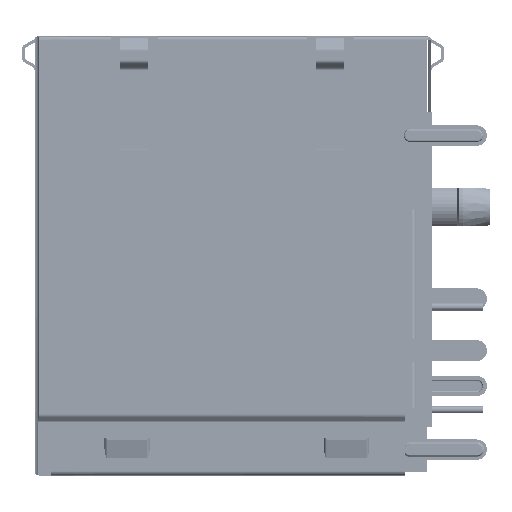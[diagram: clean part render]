
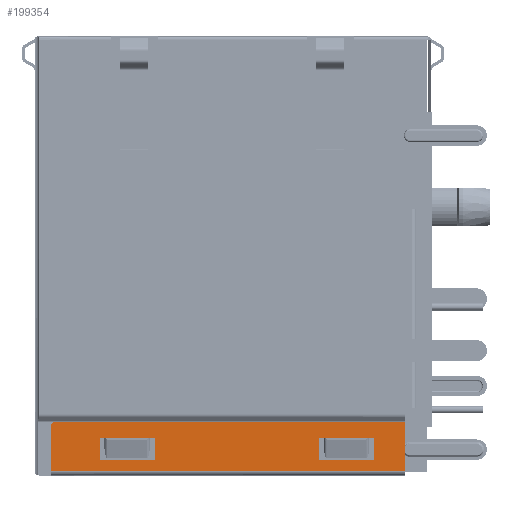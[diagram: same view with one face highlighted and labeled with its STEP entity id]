
A CAD part, left-side view. The second image highlights one B-rep face of the part: STEP entity #199354.
In plain terms, the highlighted planar face has unit normal (-1, 0, 0).
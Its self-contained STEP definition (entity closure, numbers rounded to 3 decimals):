
#162197=DIRECTION('',(0.,-1.,0.));
#162198=VECTOR('',#162197,22.609);
#162199=CARTESIAN_POINT('',(-57.495,11.609,0.3));
#162200=LINE('',#162199,#162198);
#170348=DIRECTION('',(0.,0.,1.));
#170349=VECTOR('',#170348,2.837);
#170350=CARTESIAN_POINT('',(-57.495,11.609,0.3));
#170351=LINE('',#170350,#170349);
#170352=CARTESIAN_POINT('',(-57.495,11.309,3.137));
#170353=DIRECTION('',(1.,0.,0.));
#170354=DIRECTION('',(0.,1.,0.));
#170355=AXIS2_PLACEMENT_3D('',#170352,#170353,#170354);
#170357=DIRECTION('',(0.,0.,-1.));
#170358=VECTOR('',#170357,3.137);
#170359=CARTESIAN_POINT('',(-57.495,-11.,3.437));
#170360=LINE('',#170359,#170358);
#170361=DIRECTION('',(0.,1.,0.));
#170362=VECTOR('',#170361,0.353);
#170363=CARTESIAN_POINT('',(-57.495,-5.853,2.4));
#170364=LINE('',#170363,#170362);
#170365=DIRECTION('',(0.,0.,-1.));
#170366=VECTOR('',#170365,1.4);
#170367=CARTESIAN_POINT('',(-57.495,-5.5,2.4));
#170368=LINE('',#170367,#170366);
#170369=DIRECTION('',(0.,-1.,0.));
#170370=VECTOR('',#170369,3.5);
#170371=CARTESIAN_POINT('',(-57.495,-5.5,1.));
#170372=LINE('',#170371,#170370);
#170373=DIRECTION('',(0.,0.,1.));
#170374=VECTOR('',#170373,1.4);
#170375=CARTESIAN_POINT('',(-57.495,-9.,1.));
#170376=LINE('',#170375,#170374);
#170377=DIRECTION('',(0.,1.,0.));
#170378=VECTOR('',#170377,0.353);
#170379=CARTESIAN_POINT('',(-57.495,-9.,2.4));
#170380=LINE('',#170379,#170378);
#170381=DIRECTION('',(0.,1.,0.));
#170382=VECTOR('',#170381,2.795);
#170383=CARTESIAN_POINT('',(-57.495,-8.647,2.4));
#170384=LINE('',#170383,#170382);
#170385=DIRECTION('',(0.,1.,0.));
#170386=VECTOR('',#170385,0.353);
#170387=CARTESIAN_POINT('',(-57.495,8.147,2.4));
#170388=LINE('',#170387,#170386);
#170389=DIRECTION('',(0.,0.,-1.));
#170390=VECTOR('',#170389,1.4);
#170391=CARTESIAN_POINT('',(-57.495,8.5,2.4));
#170392=LINE('',#170391,#170390);
#170393=DIRECTION('',(0.,-1.,0.));
#170394=VECTOR('',#170393,3.5);
#170395=CARTESIAN_POINT('',(-57.495,8.5,1.));
#170396=LINE('',#170395,#170394);
#170397=DIRECTION('',(0.,0.,1.));
#170398=VECTOR('',#170397,1.4);
#170399=CARTESIAN_POINT('',(-57.495,5.,1.));
#170400=LINE('',#170399,#170398);
#170401=DIRECTION('',(0.,1.,0.));
#170402=VECTOR('',#170401,0.353);
#170403=CARTESIAN_POINT('',(-57.495,5.,2.4));
#170404=LINE('',#170403,#170402);
#170405=DIRECTION('',(0.,1.,0.));
#170406=VECTOR('',#170405,2.795);
#170407=CARTESIAN_POINT('',(-57.495,5.353,2.4));
#170408=LINE('',#170407,#170406);
#170413=DIRECTION('',(0.,1.,0.));
#170414=VECTOR('',#170413,22.309);
#170415=CARTESIAN_POINT('',(-57.495,-11.,3.437));
#170416=LINE('',#170415,#170414);
#185316=CARTESIAN_POINT('',(-57.495,-11.,0.3));
#185317=VERTEX_POINT('',#185316);
#185318=CARTESIAN_POINT('',(-57.495,-11.,3.437));
#185319=VERTEX_POINT('',#185318);
#188404=CARTESIAN_POINT('',(-57.495,11.609,0.3));
#188405=VERTEX_POINT('',#188404);
#188406=CARTESIAN_POINT('',(-57.495,11.609,3.137));
#188407=VERTEX_POINT('',#188406);
#188408=CARTESIAN_POINT('',(-57.495,11.309,3.437));
#188409=VERTEX_POINT('',#188408);
#188410=CARTESIAN_POINT('',(-57.495,-5.853,2.4));
#188411=CARTESIAN_POINT('',(-57.495,-5.5,2.4));
#188412=VERTEX_POINT('',#188410);
#188413=VERTEX_POINT('',#188411);
#188414=CARTESIAN_POINT('',(-57.495,-5.5,1.));
#188415=VERTEX_POINT('',#188414);
#188416=CARTESIAN_POINT('',(-57.495,-9.,1.));
#188417=VERTEX_POINT('',#188416);
#188418=CARTESIAN_POINT('',(-57.495,-9.,2.4));
#188419=VERTEX_POINT('',#188418);
#188420=CARTESIAN_POINT('',(-57.495,-8.647,2.4));
#188421=VERTEX_POINT('',#188420);
#188422=CARTESIAN_POINT('',(-57.495,8.147,2.4));
#188423=CARTESIAN_POINT('',(-57.495,8.5,2.4));
#188424=VERTEX_POINT('',#188422);
#188425=VERTEX_POINT('',#188423);
#188426=CARTESIAN_POINT('',(-57.495,8.5,1.));
#188427=VERTEX_POINT('',#188426);
#188428=CARTESIAN_POINT('',(-57.495,5.,1.));
#188429=VERTEX_POINT('',#188428);
#188430=CARTESIAN_POINT('',(-57.495,5.,2.4));
#188431=VERTEX_POINT('',#188430);
#188432=CARTESIAN_POINT('',(-57.495,5.353,2.4));
#188433=VERTEX_POINT('',#188432);
#199313=CARTESIAN_POINT('',(-57.495,12.65,0.));
#199314=DIRECTION('',(-1.,0.,0.));
#199315=DIRECTION('',(0.,-1.,0.));
#199316=AXIS2_PLACEMENT_3D('',#199313,#199314,#199315);
#199317=PLANE('',#199316);
#199318=ORIENTED_EDGE('',*,*,#192235,.F.);
#199319=ORIENTED_EDGE('',*,*,#192256,.T.);
#199320=ORIENTED_EDGE('',*,*,#199302,.T.);
#199322=ORIENTED_EDGE('',*,*,#199321,.F.);
#199323=ORIENTED_EDGE('',*,*,#192205,.T.);
#199324=EDGE_LOOP('',(#199318,#199319,#199320,#199322,#199323));
#199325=FACE_OUTER_BOUND('',#199324,.F.);
#199327=ORIENTED_EDGE('',*,*,#199326,.T.);
#199329=ORIENTED_EDGE('',*,*,#199328,.T.);
#199331=ORIENTED_EDGE('',*,*,#199330,.T.);
#199333=ORIENTED_EDGE('',*,*,#199332,.T.);
#199335=ORIENTED_EDGE('',*,*,#199334,.T.);
#199337=ORIENTED_EDGE('',*,*,#199336,.T.);
#199338=EDGE_LOOP('',(#199327,#199329,#199331,#199333,#199335,#199337));
#199339=FACE_BOUND('',#199338,.F.);
#199341=ORIENTED_EDGE('',*,*,#199340,.T.);
#199343=ORIENTED_EDGE('',*,*,#199342,.T.);
#199345=ORIENTED_EDGE('',*,*,#199344,.T.);
#199347=ORIENTED_EDGE('',*,*,#199346,.T.);
#199349=ORIENTED_EDGE('',*,*,#199348,.T.);
#199351=ORIENTED_EDGE('',*,*,#199350,.T.);
#199352=EDGE_LOOP('',(#199341,#199343,#199345,#199347,#199349,#199351));
#199353=FACE_BOUND('',#199352,.F.);
#199354=ADVANCED_FACE('',(#199325,#199339,#199353),#199317,.T.);
#170356=CIRCLE('',#170355,0.3);
#192205=EDGE_CURVE('',#185319,#185317,#170360,.T.);
#192235=EDGE_CURVE('',#188405,#185317,#162200,.T.);
#192256=EDGE_CURVE('',#188405,#188407,#170351,.T.);
#199302=EDGE_CURVE('',#188407,#188409,#170356,.T.);
#199321=EDGE_CURVE('',#185319,#188409,#170416,.T.);
#199326=EDGE_CURVE('',#188412,#188413,#170364,.T.);
#199328=EDGE_CURVE('',#188413,#188415,#170368,.T.);
#199330=EDGE_CURVE('',#188415,#188417,#170372,.T.);
#199332=EDGE_CURVE('',#188417,#188419,#170376,.T.);
#199334=EDGE_CURVE('',#188419,#188421,#170380,.T.);
#199336=EDGE_CURVE('',#188421,#188412,#170384,.T.);
#199340=EDGE_CURVE('',#188424,#188425,#170388,.T.);
#199342=EDGE_CURVE('',#188425,#188427,#170392,.T.);
#199344=EDGE_CURVE('',#188427,#188429,#170396,.T.);
#199346=EDGE_CURVE('',#188429,#188431,#170400,.T.);
#199348=EDGE_CURVE('',#188431,#188433,#170404,.T.);
#199350=EDGE_CURVE('',#188433,#188424,#170408,.T.);
